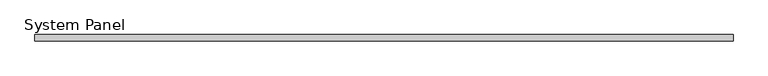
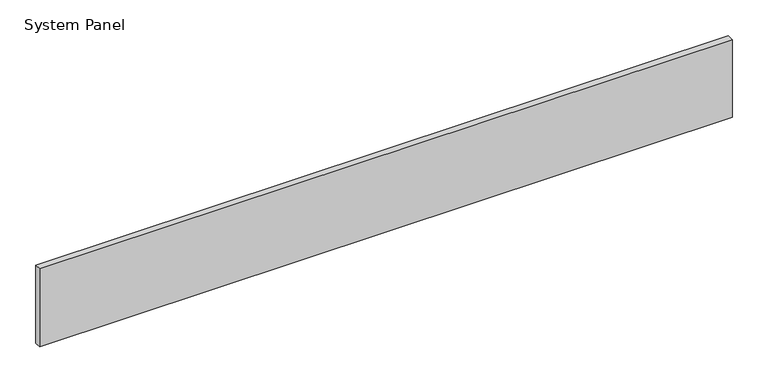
"""IFC4 building model written with IfcOpenShell, lengths in millimetres: plate geometry, System Panel : VACÍO."""

from ifc_helpers import new_model, si_unit, origin, origin_with_axes, place, context, project, spatial, polyline, outline, extrude, source, transform, mapped, element, save


def system_panel_4abefd2b(model_context):
    return source(origin(), model_context, "Body", "SweptSolid", [
        extrude(outline(polyline([(555.7609662, -5.0), (-555.7609662, -5.0), (-555.7609662, 5.0), (555.7609662, 5.0), (555.7609662, -5.0)])), origin_with_axes(), (0.0, 0.0, 1.0), 132.0338449),
    ])


if __name__ == "__main__":
    model = new_model("IFC4")
    model_context = context("Model", 3, world=origin())
    ifc_project = project(units=[si_unit("LENGTHUNIT", "METRE", prefix="MILLI")], contexts=[model_context])
    site = spatial("IfcSite", under=ifc_project)
    building = spatial("IfcBuilding", under=site)
    placement = place(None, origin())
    system_panel_shape = system_panel_4abefd2b(model_context)
    element("IfcPlate", 1, ObjectType="System Panel : VACÍO", at=placement, inside=building, context=model_context, shape_type="MappedRepresentation", body=[
        mapped(system_panel_shape, transform((0.0, 0.0, 0.0), x_axis=(1.0, 0.0, 0.0), y_axis=(0.0, 1.0, 0.0), z_axis=(0.0, 0.0, 1.0))),
    ])
    save(model, "model.ifc")
